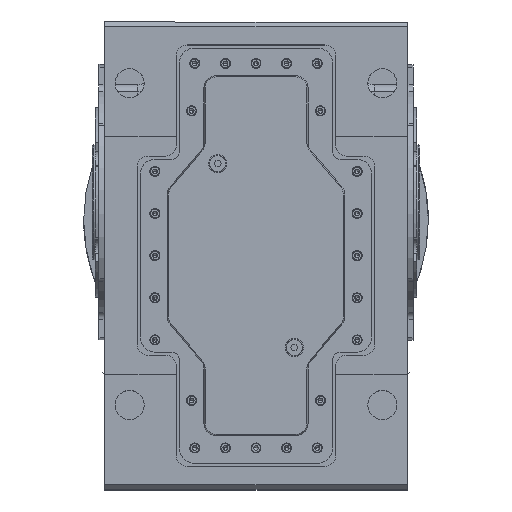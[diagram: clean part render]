
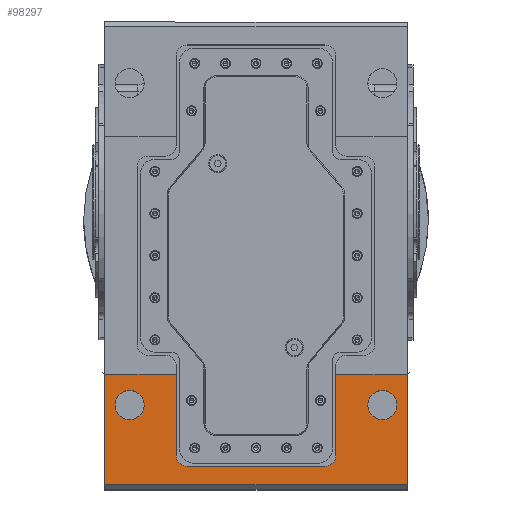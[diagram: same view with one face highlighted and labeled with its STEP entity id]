
A CAD part, top view. The second image highlights one B-rep face of the part: STEP entity #98297.
In plain terms, the highlighted planar face has unit normal (0, 0, 1).
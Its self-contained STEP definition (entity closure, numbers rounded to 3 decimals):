
#565 = DIRECTION ( 'NONE',  ( -1., 0., 0. ) ) ;
#572 = CARTESIAN_POINT ( 'NONE',  ( -197.5, 229.5, 687. ) ) ;
#575 = DIRECTION ( 'NONE',  ( 0., 1., 0. ) ) ;
#577 = CARTESIAN_POINT ( 'NONE',  ( -200., -346.5, 687. ) ) ;
#579 = DIRECTION ( 'NONE',  ( 1., 0., 0. ) ) ;
#583 = CARTESIAN_POINT ( 'NONE',  ( -200., -202.5, 687. ) ) ;
#612 = CARTESIAN_POINT ( 'NONE',  ( 197.5, 229.5, 687. ) ) ;
#613 = DIRECTION ( 'NONE',  ( 0., -1., 0. ) ) ;
#1704 = EDGE_CURVE ( 'NONE', #120319, #120321, #127088, .T. ) ;
#1896 = EDGE_CURVE ( 'NONE', #120433, #120493, #66035, .T. ) ;
#3685 = VERTEX_POINT ( 'NONE', #4825 ) ;
#3689 = VERTEX_POINT ( 'NONE', #4803 ) ;
#3793 = VERTEX_POINT ( 'NONE', #4965 ) ;
#4803 = CARTESIAN_POINT ( 'NONE',  ( 197.5, -346.5, 687. ) ) ;
#4825 = CARTESIAN_POINT ( 'NONE',  ( 197.5, -202.5, 687. ) ) ;
#4965 = CARTESIAN_POINT ( 'NONE',  ( -197.5, -346.5, 687. ) ) ;
#7153 = DIRECTION ( 'NONE',  ( 0., 0., -1. ) ) ;
#7167 = DIRECTION ( 'NONE',  ( 0., 0., -1. ) ) ;
#7169 = CARTESIAN_POINT ( 'NONE',  ( 90., -308.5, 687. ) ) ;
#7175 = DIRECTION ( 'NONE',  ( 1., 0., 0. ) ) ;
#7176 = CARTESIAN_POINT ( 'NONE',  ( -90., -308.5, 687. ) ) ;
#7187 = DIRECTION ( 'NONE',  ( 1., 0., 0. ) ) ;
#7203 = CARTESIAN_POINT ( 'NONE',  ( 104., -202.5, 687. ) ) ;
#7206 = CARTESIAN_POINT ( 'NONE',  ( -104., -202.5, 687. ) ) ;
#7211 = DIRECTION ( 'NONE',  ( 0., -1., 0. ) ) ;
#7228 = DIRECTION ( 'NONE',  ( 0., 1., 0. ) ) ;
#7241 = CARTESIAN_POINT ( 'NONE',  ( -165., -242.5, 687. ) ) ;
#7243 = CARTESIAN_POINT ( 'NONE',  ( -200., -322.5, 687. ) ) ;
#7249 = DIRECTION ( 'NONE',  ( 0., 0., -1. ) ) ;
#7255 = DIRECTION ( 'NONE',  ( -1., 0., 0. ) ) ;
#7273 = DIRECTION ( 'NONE',  ( 1., 0., 0. ) ) ;
#27447 = AXIS2_PLACEMENT_3D ( 'NONE', #107061, #107071, #107073 ) ;
#27798 = AXIS2_PLACEMENT_3D ( 'NONE', #7169, #7153, #7175 ) ;
#27808 = AXIS2_PLACEMENT_3D ( 'NONE', #7176, #7167, #7187 ) ;
#27815 = AXIS2_PLACEMENT_3D ( 'NONE', #7241, #7249, #7273 ) ;
#37931 = AXIS2_PLACEMENT_3D ( 'NONE', #156888, #156912, #156914 ) ;
#42781 = EDGE_CURVE ( 'NONE', #120321, #120319, #104057, .T. ) ;
#43052 = EDGE_CURVE ( 'NONE', #59566, #85576, #104294, .T. ) ;
#43387 = EDGE_CURVE ( 'NONE', #3793, #3689, #104676, .T. ) ;
#43404 = EDGE_CURVE ( 'NONE', #3685, #51915, #104684, .T. ) ;
#43417 = EDGE_CURVE ( 'NONE', #3793, #85576, #104613, .T. ) ;
#43459 = EDGE_CURVE ( 'NONE', #3685, #3689, #104761, .T. ) ;
#46338 = CARTESIAN_POINT ( 'NONE',  ( 146., -242.5, 687. ) ) ;
#46388 = CARTESIAN_POINT ( 'NONE',  ( 184., -242.5, 687. ) ) ;
#46468 = CARTESIAN_POINT ( 'NONE',  ( -146., -242.5, 687. ) ) ;
#46513 = CARTESIAN_POINT ( 'NONE',  ( -184., -242.5, 687. ) ) ;
#51915 = VERTEX_POINT ( 'NONE', #132190 ) ;
#51923 = VERTEX_POINT ( 'NONE', #132114 ) ;
#51925 = VERTEX_POINT ( 'NONE', #132096 ) ;
#51940 = VERTEX_POINT ( 'NONE', #132075 ) ;
#52452 = EDGE_CURVE ( 'NONE', #51923, #51925, #137283, .T. ) ;
#52453 = EDGE_CURVE ( 'NONE', #51940, #59555, #137281, .T. ) ;
#52462 = EDGE_CURVE ( 'NONE', #51915, #51923, #137333, .T. ) ;
#52471 = EDGE_CURVE ( 'NONE', #59555, #59566, #137417, .T. ) ;
#52479 = EDGE_CURVE ( 'NONE', #120493, #120433, #137421, .T. ) ;
#52480 = EDGE_CURVE ( 'NONE', #51925, #51940, #137509, .T. ) ;
#59555 = VERTEX_POINT ( 'NONE', #148595 ) ;
#59566 = VERTEX_POINT ( 'NONE', #148569 ) ;
#66035 = CIRCLE ( 'NONE', #114645, 19. ) ;
#71758 = CARTESIAN_POINT ( 'NONE',  ( 165., -242.5, 687. ) ) ;
#71780 = DIRECTION ( 'NONE',  ( 1., 0., 0. ) ) ;
#71795 = DIRECTION ( 'NONE',  ( 0., 0., -1. ) ) ;
#85576 = VERTEX_POINT ( 'NONE', #161147 ) ;
#97612 = EDGE_LOOP ( 'NONE', ( #137468, #137372, #137430, #137508, #137412, #137512, #137526, #137356, #137314, #137346 ) ) ;
#97752 = EDGE_LOOP ( 'NONE', ( #137482, #137210 ) ) ;
#97873 = EDGE_LOOP ( 'NONE', ( #137292, #137514 ) ) ;
#98297 = ADVANCED_FACE ( 'NONE', ( #159201, #159228, #159490 ), #156884, .T. ) ;
#104057 = CIRCLE ( 'NONE', #27447, 19. ) ;
#104294 = LINE ( 'NONE', #106132, #104295 ) ;
#104295 = VECTOR ( 'NONE', #106128, 1000. ) ;
#104597 = VECTOR ( 'NONE', #565, 1000. ) ;
#104613 = LINE ( 'NONE', #572, #104688 ) ;
#104617 = VECTOR ( 'NONE', #579, 1000. ) ;
#104676 = LINE ( 'NONE', #577, #104617 ) ;
#104684 = LINE ( 'NONE', #583, #104597 ) ;
#104688 = VECTOR ( 'NONE', #575, 1000. ) ;
#104761 = LINE ( 'NONE', #612, #104766 ) ;
#104766 = VECTOR ( 'NONE', #613, 1000. ) ;
#106128 = DIRECTION ( 'NONE',  ( -1., 0., 0. ) ) ;
#106132 = CARTESIAN_POINT ( 'NONE',  ( -200., -202.5, 687. ) ) ;
#107061 = CARTESIAN_POINT ( 'NONE',  ( 165., -242.5, 687. ) ) ;
#107071 = DIRECTION ( 'NONE',  ( 0., 0., -1. ) ) ;
#107073 = DIRECTION ( 'NONE',  ( 1., 0., 0. ) ) ;
#114589 = AXIS2_PLACEMENT_3D ( 'NONE', #71758, #71795, #71780 ) ;
#114645 = AXIS2_PLACEMENT_3D ( 'NONE', #139165, #139128, #139154 ) ;
#120319 = VERTEX_POINT ( 'NONE', #46388 ) ;
#120321 = VERTEX_POINT ( 'NONE', #46338 ) ;
#120433 = VERTEX_POINT ( 'NONE', #46468 ) ;
#120493 = VERTEX_POINT ( 'NONE', #46513 ) ;
#127088 = CIRCLE ( 'NONE', #114589, 19. ) ;
#132075 = CARTESIAN_POINT ( 'NONE',  ( -90., -322.5, 687. ) ) ;
#132096 = CARTESIAN_POINT ( 'NONE',  ( 90., -322.5, 687. ) ) ;
#132114 = CARTESIAN_POINT ( 'NONE',  ( 104., -308.5, 687. ) ) ;
#132190 = CARTESIAN_POINT ( 'NONE',  ( 104., -202.5, 687. ) ) ;
#137210 = ORIENTED_EDGE ( 'NONE', *, *, #42781, .T. ) ;
#137281 = CIRCLE ( 'NONE', #27808, 14. ) ;
#137283 = CIRCLE ( 'NONE', #27798, 14. ) ;
#137292 = ORIENTED_EDGE ( 'NONE', *, *, #1896, .T. ) ;
#137307 = VECTOR ( 'NONE', #7211, 1000. ) ;
#137314 = ORIENTED_EDGE ( 'NONE', *, *, #52452, .T. ) ;
#137333 = LINE ( 'NONE', #7203, #137307 ) ;
#137346 = ORIENTED_EDGE ( 'NONE', *, *, #52480, .T. ) ;
#137356 = ORIENTED_EDGE ( 'NONE', *, *, #52462, .T. ) ;
#137372 = ORIENTED_EDGE ( 'NONE', *, *, #52471, .T. ) ;
#137412 = ORIENTED_EDGE ( 'NONE', *, *, #43387, .T. ) ;
#137417 = LINE ( 'NONE', #7206, #137495 ) ;
#137421 = CIRCLE ( 'NONE', #27815, 19. ) ;
#137430 = ORIENTED_EDGE ( 'NONE', *, *, #43052, .T. ) ;
#137468 = ORIENTED_EDGE ( 'NONE', *, *, #52453, .T. ) ;
#137482 = ORIENTED_EDGE ( 'NONE', *, *, #1704, .T. ) ;
#137495 = VECTOR ( 'NONE', #7228, 1000. ) ;
#137508 = ORIENTED_EDGE ( 'NONE', *, *, #43417, .F. ) ;
#137509 = LINE ( 'NONE', #7243, #137511 ) ;
#137511 = VECTOR ( 'NONE', #7255, 1000. ) ;
#137512 = ORIENTED_EDGE ( 'NONE', *, *, #43459, .F. ) ;
#137514 = ORIENTED_EDGE ( 'NONE', *, *, #52479, .T. ) ;
#137526 = ORIENTED_EDGE ( 'NONE', *, *, #43404, .T. ) ;
#139128 = DIRECTION ( 'NONE',  ( 0., 0., -1. ) ) ;
#139154 = DIRECTION ( 'NONE',  ( 1., 0., 0. ) ) ;
#139165 = CARTESIAN_POINT ( 'NONE',  ( -165., -242.5, 687. ) ) ;
#148569 = CARTESIAN_POINT ( 'NONE',  ( -104., -202.5, 687. ) ) ;
#148595 = CARTESIAN_POINT ( 'NONE',  ( -104., -308.5, 687. ) ) ;
#156884 = PLANE ( 'NONE',  #37931 ) ;
#156888 = CARTESIAN_POINT ( 'NONE',  ( -200., -202.5, 687. ) ) ;
#156912 = DIRECTION ( 'NONE',  ( 0., 0., 1. ) ) ;
#156914 = DIRECTION ( 'NONE',  ( 1., 0., 0. ) ) ;
#159201 = FACE_OUTER_BOUND ( 'NONE', #97612, .T. ) ;
#159228 = FACE_BOUND ( 'NONE', #97752, .T. ) ;
#159490 = FACE_BOUND ( 'NONE', #97873, .T. ) ;
#161147 = CARTESIAN_POINT ( 'NONE',  ( -197.5, -202.5, 687. ) ) ;
